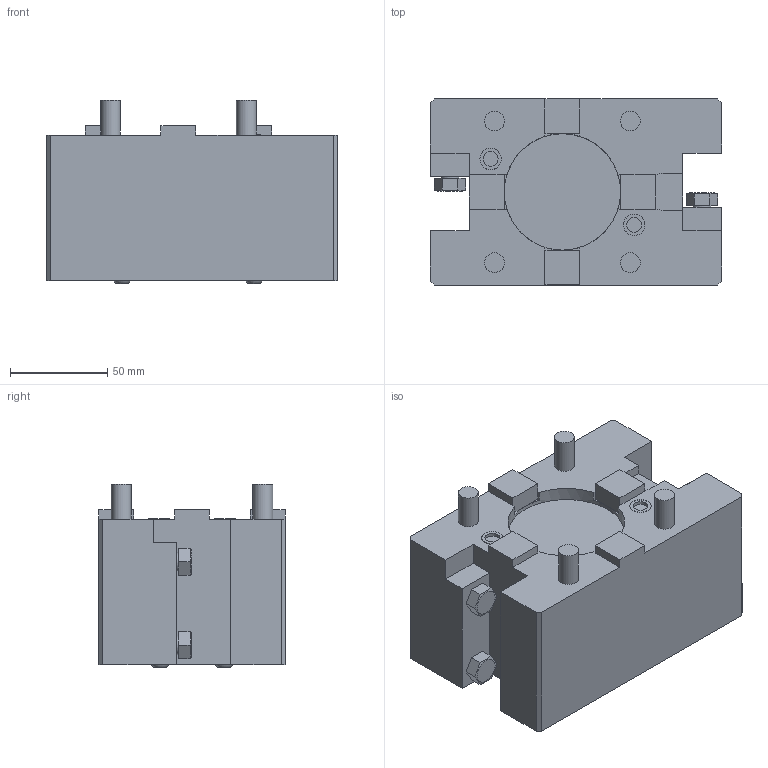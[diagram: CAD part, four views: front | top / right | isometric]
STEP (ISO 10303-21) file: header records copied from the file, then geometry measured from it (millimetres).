
FILE_DESCRIPTION(/* description */ (''),/* implementation_level */ '2;1');
FILE_NAME(/* name */ '197958-UNI',/* time_stamp */ '2022-01-04T08:52:13+01:00',/* author */ (''),/* organization */ (''),/* preprocessor_version */ 'ST-DEVELOPER v16.5',/* originating_system */ 'HiCAD 2017 2201.0 Build 268',/* authorisation */ '');
FILE_SCHEMA (('AUTOMOTIVE_DESIGN { 1 0 10303 214 1 1 1 1 }'));
Length unit declared in the file: millimetre
Products named in the file (2): Root; Teil
Assembly tree (1 placements, depth 2):
  Root
    Teil
Bounding box: 150 x 96 x 94.66 mm (x, y, z)
Volume: 978543.7 mm3; surface area: 83644.2 mm2
Topology: 1 solids, 1 shells, 215 faces, 504 edges, 325 vertices
Faces by surface type: plane 170, cylinder 29, cone 8, torus 4, sphere 4
Full cylindrical faces by diameter (mm): 6 x4, 7.65 x2, 9.6 x4, 10.2 x4, 11.01 x2, 11.1 x2, 18 x4, 20 x4, 60 x1
Entity records: 10135 total; most frequent: DIRECTION 1006, CARTESIAN_POINT 963, PRESENTATION_STYLE_ASSIGNMENT 879, COLOUR_RGB 879, DRAUGHTING_PRE_DEFINED_CURVE_FONT 878, CURVE_STYLE 878, OVER_RIDING_STYLED_ITEM 878, ORIENTED_EDGE 878
